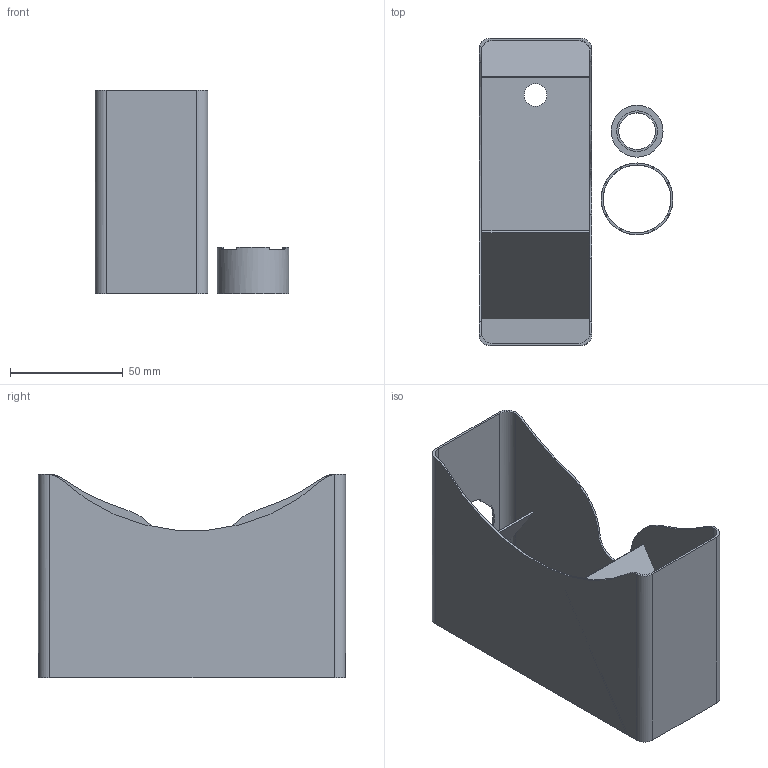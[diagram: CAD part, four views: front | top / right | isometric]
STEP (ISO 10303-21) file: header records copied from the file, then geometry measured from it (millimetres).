
FILE_DESCRIPTION(/* description */ (''),/* implementation_level */ '2;1');
FILE_NAME(/* name */ 'C:/Users/tatsu/Desktop/CapNYS_fix_3d/capnys.stp',/* time_stamp */ '2026-05-16T07:18:50+09:00',/* author */ (''),/* organization */ (''),/* preprocessor_version */ 'ST-DEVELOPER v15.2',/* originating_system */ 'Autodesk Translator Framework v2.0.0.5431',/* authorisation */ '');
FILE_SCHEMA (('AUTOMOTIVE_DESIGN { 1 0 10303 214 3 1 1 }'));
Length unit declared in the file: centimetre
Products named in the file (1): capnys
Bounding box: 85.9 x 136 x 90 mm (x, y, z)
Volume: 41089.9 mm3; surface area: 81993.8 mm2
Topology: 4 solids, 4 shells, 96 faces, 265 edges, 177 vertices
Faces by surface type: plane 61, cylinder 35
Full cylindrical faces by diameter (mm): 10 x1, 16.2 x1, 18 x1, 23 x1, 30 x1, 31.8 x1
Entity records: 3091 total; most frequent: CARTESIAN_POINT 555, DIRECTION 542, ORIENTED_EDGE 512, EDGE_CURVE 256, AXIS2_PLACEMENT_3D 197, VERTEX_POINT 174, LINE 148, VECTOR 148
